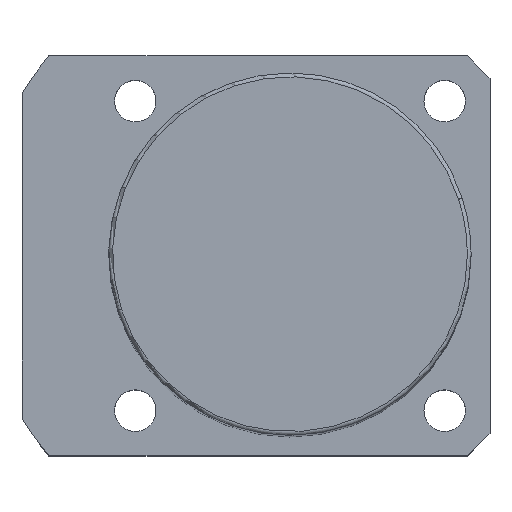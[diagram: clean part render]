
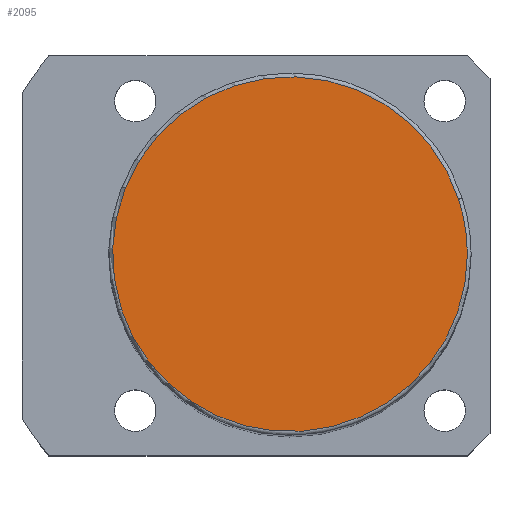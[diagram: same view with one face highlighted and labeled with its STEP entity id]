
A CAD part, top view. The second image highlights one B-rep face of the part: STEP entity #2095.
In plain terms, the highlighted planar face has unit normal (0, 0, 1).
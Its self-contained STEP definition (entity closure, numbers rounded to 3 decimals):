
#2028=CARTESIAN_POINT('',(22.35,7.262,139.0));
#2029=VERTEX_POINT('',#2028);
#2047=CARTESIAN_POINT('',(-22.35,-7.262,139.0));
#2048=VERTEX_POINT('',#2047);
#2056=CARTESIAN_POINT('',(0.0,0.0,139.0));
#2057=DIRECTION('',(0.0,0.0,1.0));
#2058=DIRECTION('',(1.0,0.0,0.0));
#2059=AXIS2_PLACEMENT_3D('',#2056,#2057,#2058);
#2060=CIRCLE('',#2059,23.5);
#2061=EDGE_CURVE('no 2111',#2029,#2048,#2060,.T.);
#2071=CARTESIAN_POINT('',(23.5,0.0,139.0));
#2072=VERTEX_POINT('',#2071);
#2073=CARTESIAN_POINT('',(0.0,0.0,139.0));
#2074=DIRECTION('',(0.0,0.0,1.0));
#2075=DIRECTION('',(1.0,0.0,0.0));
#2076=AXIS2_PLACEMENT_3D('',#2073,#2074,#2075);
#2077=CIRCLE('',#2076,23.5);
#2078=EDGE_CURVE('no 2120',#2072,#2029,#2077,.T.);
#2079=ORIENTED_EDGE('',*,*,#2078,.T.);
#2080=ORIENTED_EDGE('',*,*,#2061,.T.);
#2081=CARTESIAN_POINT('',(0.0,0.0,139.0));
#2082=DIRECTION('',(0.0,0.0,1.0));
#2083=DIRECTION('',(1.0,0.0,0.0));
#2084=AXIS2_PLACEMENT_3D('',#2081,#2082,#2083);
#2085=CIRCLE('',#2084,23.5);
#2086=EDGE_CURVE('no 2126',#2048,#2072,#2085,.T.);
#2087=ORIENTED_EDGE('',*,*,#2086,.T.);
#2088=EDGE_LOOP('',(#2079,#2080,#2087));
#2089=FACE_OUTER_BOUND('',#2088,.T.);
#2090=CARTESIAN_POINT('',(0.0,0.0,139.0));
#2091=DIRECTION('',(0.0,0.0,1.0));
#2092=DIRECTION('',(1.0,0.0,0.0));
#2093=AXIS2_PLACEMENT_3D('',#2090,#2091,#2092);
#2094=PLANE('',#2093);
#2095=ADVANCED_FACE('no 2113',(#2089),#2094,.T.);
